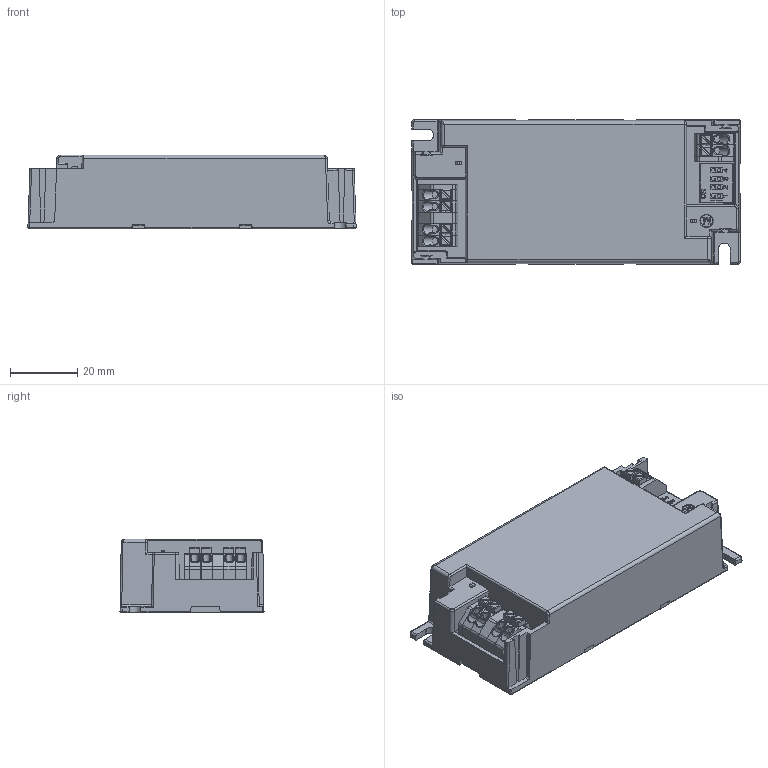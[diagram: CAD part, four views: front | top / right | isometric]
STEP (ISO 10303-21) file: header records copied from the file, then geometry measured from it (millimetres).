
FILE_DESCRIPTION((''),'2;1');
FILE_NAME('MINI-DALI_ASM','2025-03-15T',('Administrator'),(''),'PRO/ENGINEER BY PARAMETRIC TECHNOLOGY CORPORATION, 2010280','PRO/ENGINEER BY PARAMETRIC TECHNOLOGY CORPORATION, 2010280','');
FILE_SCHEMA(('CONFIG_CONTROL_DESIGN'));
Length unit declared in the file: millimetre
Products named in the file (18): DOWN_7_1; 000_5_4; WK_ASM_6_ASM_1_ASM; MIN-DALL_ASM_1_ASM_1_ASM; BOMA_1; PRT0003_2; PRT0004_1; ASM0006_ASM_1_ASM; ASM0005_ASM_1_ASM; ASM0004_ASM_1_ASM; PRT0002_1_1; 4PIN_ASM_8_ASM_ASM_2_ASM_1_ASM; 111_1_1; 4PIN_ASM_ASM_ASM_2_ASM_1_ASM; 5PIN_ASM_1_ASM; MIN-DALL_ASM_ASM_5_ASM; TOP_9; MINI-DALI_ASM
Assembly tree (21 placements, depth 6):
  MINI-DALI_ASM
    MIN-DALL_ASM_ASM_5_ASM
      MIN-DALL_ASM_1_ASM_1_ASM
        WK_ASM_6_ASM_1_ASM
          DOWN_7_1
          000_5_4
      BOMA_1
      ASM0004_ASM_1_ASM
        ASM0005_ASM_1_ASM
          ASM0006_ASM_1_ASM
            PRT0003_2
            PRT0004_1  x2
      5PIN_ASM_1_ASM
        4PIN_ASM_ASM_ASM_2_ASM_1_ASM
          4PIN_ASM_8_ASM_ASM_2_ASM_1_ASM  x2
            PRT0002_1_1
          111_1_1
        PRT0003_2
    TOP_9
Bounding box: 97.98 x 42.99 x 22 mm (x, y, z)
Volume: 25463 mm3; surface area: 40823.6 mm2
Topology: 13 solids, 13 shells, 1217 faces, 3395 edges, 2223 vertices
Faces by surface type: plane 720, cylinder 305, bspline 56, torus 56, extrusion 44, sphere 24, cone 12
Entity records: 34952 total; most frequent: CARTESIAN_POINT 11165, ORIENTED_EDGE 5136, DIRECTION 4456, EDGE_CURVE 2568, VECTOR 1834, LINE 1790, VERTEX_POINT 1681, AXIS2_PLACEMENT_3D 1311
